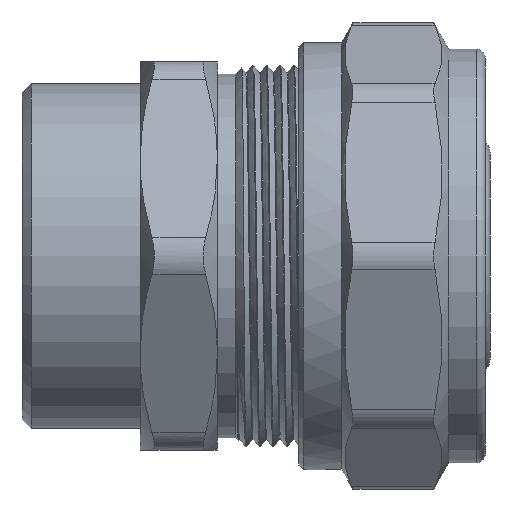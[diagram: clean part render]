
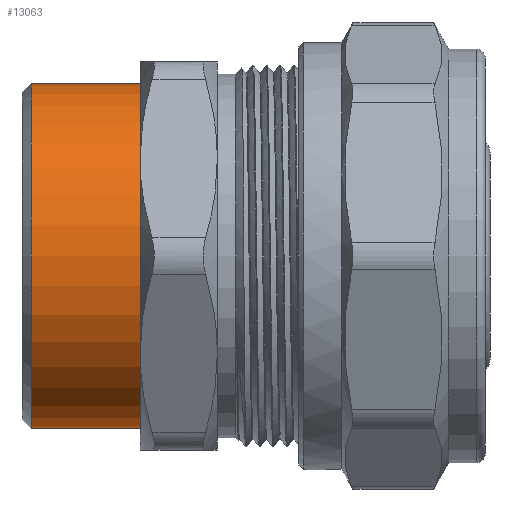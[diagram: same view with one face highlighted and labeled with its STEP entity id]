
A CAD part, front view. The second image highlights one B-rep face of the part: STEP entity #13063.
In plain terms, the highlighted cylindrical face has radius 19 mm (diameter 38 mm), a full revolution.
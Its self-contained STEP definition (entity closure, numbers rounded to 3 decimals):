
#840=CIRCLE('',#13546,19.);
#841=CIRCLE('',#13547,19.);
#842=CIRCLE('',#13549,19.);
#843=CIRCLE('',#13550,19.);
#1655=FACE_OUTER_BOUND('',#2406,.T.);
#2406=EDGE_LOOP('',(#11894,#11895,#11896,#11897,#11898,#11899));
#4114=LINE('',#31802,#4910);
#4910=VECTOR('',#15357,19.);
#6146=VERTEX_POINT('',#31793);
#6147=VERTEX_POINT('',#31794);
#6148=VERTEX_POINT('',#31798);
#6149=VERTEX_POINT('',#31799);
#8096=EDGE_CURVE('',#6146,#6147,#840,.T.);
#8097=EDGE_CURVE('',#6147,#6146,#841,.T.);
#8098=EDGE_CURVE('',#6148,#6149,#842,.T.);
#8099=EDGE_CURVE('',#6149,#6148,#843,.T.);
#8100=EDGE_CURVE('',#6149,#6147,#4114,.T.);
#11894=ORIENTED_EDGE('',*,*,#8098,.F.);
#11895=ORIENTED_EDGE('',*,*,#8099,.F.);
#11896=ORIENTED_EDGE('',*,*,#8100,.T.);
#11897=ORIENTED_EDGE('',*,*,#8097,.T.);
#11898=ORIENTED_EDGE('',*,*,#8096,.T.);
#11899=ORIENTED_EDGE('',*,*,#8100,.F.);
#12401=CYLINDRICAL_SURFACE('',#13548,19.);
#13063=ADVANCED_FACE('',(#1655),#12401,.T.);
#13546=AXIS2_PLACEMENT_3D('',#31795,#15347,#15348);
#13547=AXIS2_PLACEMENT_3D('',#31796,#15349,#15350);
#13548=AXIS2_PLACEMENT_3D('',#31797,#15351,#15352);
#13549=AXIS2_PLACEMENT_3D('',#31800,#15353,#15354);
#13550=AXIS2_PLACEMENT_3D('',#31801,#15355,#15356);
#15347=DIRECTION('center_axis',(-1.,0.,0.));
#15348=DIRECTION('ref_axis',(0.,0.,1.));
#15349=DIRECTION('center_axis',(-1.,0.,0.));
#15350=DIRECTION('ref_axis',(0.,0.,1.));
#15351=DIRECTION('center_axis',(-1.,0.,0.));
#15352=DIRECTION('ref_axis',(0.,-1.,0.));
#15353=DIRECTION('center_axis',(-1.,0.,0.));
#15354=DIRECTION('ref_axis',(0.,0.,1.));
#15355=DIRECTION('center_axis',(-1.,0.,0.));
#15356=DIRECTION('ref_axis',(0.,0.,1.));
#15357=DIRECTION('',(1.,0.,0.));
#31793=CARTESIAN_POINT('',(-12.75,-19.,0.));
#31794=CARTESIAN_POINT('',(-12.75,19.,0.));
#31795=CARTESIAN_POINT('Origin',(-12.75,0.,
0.));
#31796=CARTESIAN_POINT('Origin',(-12.75,0.,
0.));
#31797=CARTESIAN_POINT('Origin',(-18.75,0.,
0.));
#31798=CARTESIAN_POINT('',(-24.75,-19.,0.));
#31799=CARTESIAN_POINT('',(-24.75,19.,0.));
#31800=CARTESIAN_POINT('Origin',(-24.75,0.,
0.));
#31801=CARTESIAN_POINT('Origin',(-24.75,0.,
0.));
#31802=CARTESIAN_POINT('',(-18.75,19.,0.));
